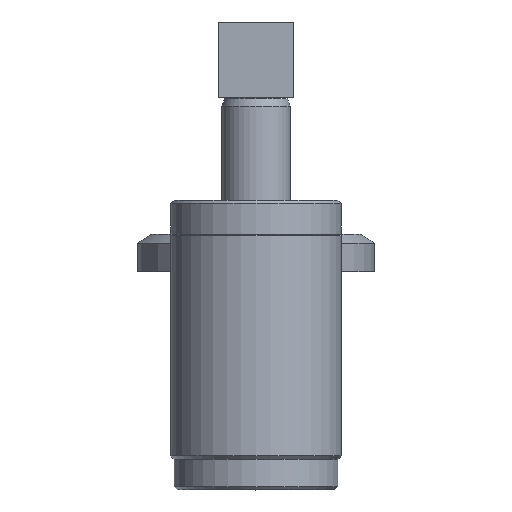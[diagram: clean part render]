
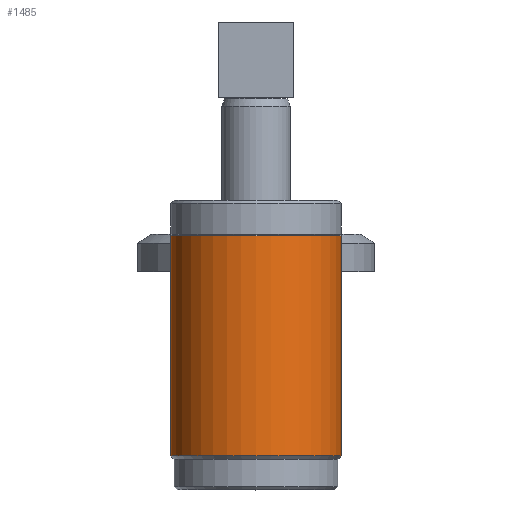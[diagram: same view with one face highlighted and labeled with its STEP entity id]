
A CAD part, left-side view. The second image highlights one B-rep face of the part: STEP entity #1485.
In plain terms, the highlighted cylindrical face has radius 25 mm (diameter 50 mm), a full revolution.
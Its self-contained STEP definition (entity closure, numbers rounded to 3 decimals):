
#71=CYLINDRICAL_SURFACE('',#2047,25.);
#347=CIRCLE('',#2024,25.);
#358=CIRCLE('',#2046,25.);
#713=ORIENTED_EDGE('',*,*,#881,.T.);
#714=ORIENTED_EDGE('',*,*,#892,.T.);
#881=EDGE_CURVE('',#1009,#1009,#347,.T.);
#892=EDGE_CURVE('',#1020,#1020,#358,.T.);
#1009=VERTEX_POINT('',#3092);
#1020=VERTEX_POINT('',#3125);
#1213=EDGE_LOOP('',(#713));
#1214=EDGE_LOOP('',(#714));
#1373=FACE_BOUND('',#1213,.T.);
#1374=FACE_BOUND('',#1214,.T.);
#1485=ADVANCED_FACE('',(#1373,#1374),#71,.T.);
#2024=AXIS2_PLACEMENT_3D('',#3091,#2417,#2418);
#2046=AXIS2_PLACEMENT_3D('',#3124,#2461,#2462);
#2047=AXIS2_PLACEMENT_3D('',#3126,#2463,#2464);
#2417=DIRECTION('',(0.,0.,-1.));
#2418=DIRECTION('',(-1.,0.,0.));
#2461=DIRECTION('',(0.,0.,1.));
#2462=DIRECTION('',(1.,0.,0.));
#2463=DIRECTION('',(0.,0.,1.));
#2464=DIRECTION('',(1.,0.,0.));
#3091=CARTESIAN_POINT('',(0.,0.,74.5));
#3092=CARTESIAN_POINT('',(-25.,0.,74.5));
#3124=CARTESIAN_POINT('',(0.,0.,10.));
#3125=CARTESIAN_POINT('',(25.,0.,10.));
#3126=CARTESIAN_POINT('',(0.,0.,153.32));
